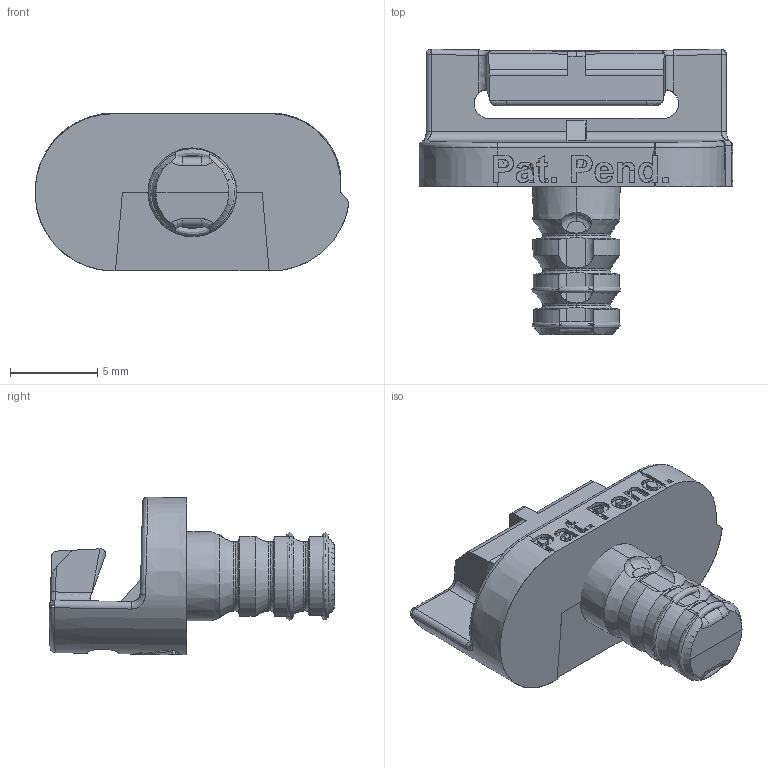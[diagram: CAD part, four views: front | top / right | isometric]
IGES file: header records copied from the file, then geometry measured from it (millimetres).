
Start section: 3D InterOp IGES (v. 2022 1.0.1), Spatial Corp. Copyright (c) 1999-2020.
Global section: file name: E547-S_11.04.560-0 Slide-on Connector Temari W__5x9mm Dowel Grey  PC.igs; native system: Spatial Corp.; preprocessor: 3D InterOp GENERIC/IGES 3.0; author: Noname; organization: Noname; date: 20251208.170148; units: millimetre
Bounding box: 17.95 x 16.36 x 9.04 mm (x, y, z)
Surface area: 911.8 mm2 (no closed solid volume)
Topology: 0 solids, 0 shells, 438 faces, 2622 edges, 2592 vertices
Faces by surface type: extrusion 183, bspline 169, revolution 86
